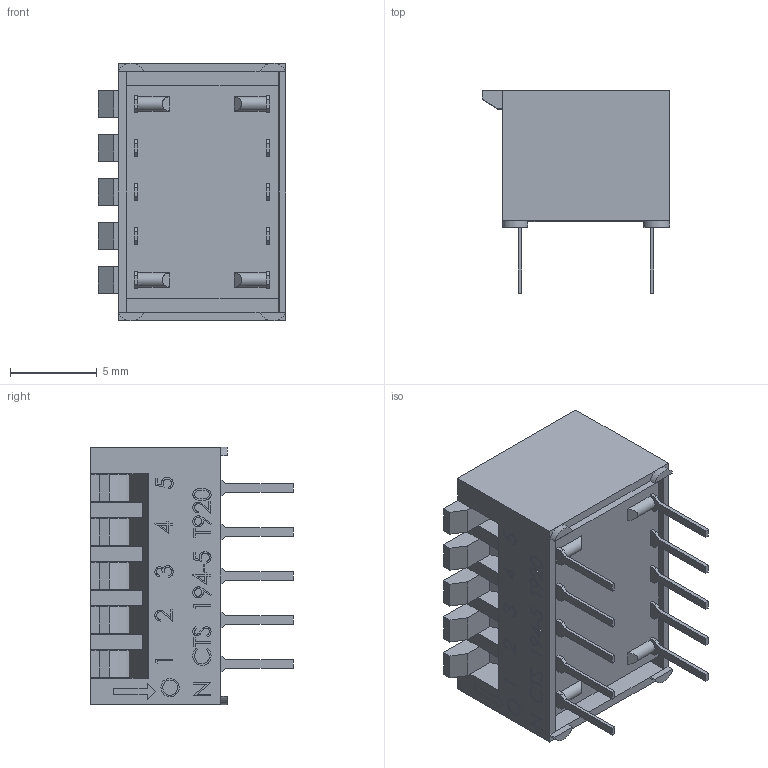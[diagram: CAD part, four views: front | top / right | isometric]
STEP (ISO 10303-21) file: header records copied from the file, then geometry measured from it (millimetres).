
FILE_DESCRIPTION (( 'STEP AP214' ), '1' );
FILE_NAME ('194-5MS.STEP', '2019-05-24T05:52:24', ( '' ), ( '' ), 'SwSTEP 2.0', 'SolidWorks 2019', '' );
FILE_SCHEMA (( 'AUTOMOTIVE_DESIGN' ));
Length unit declared in the file: millimetre
Products named in the file (4): 194-5 pole assembly; 194-40-105; 194-5MS; 193-56-001
Assembly tree (7 placements, depth 2):
  194-5MS
    194-40-105
    193-56-001  x5
    194-5 pole assembly
Bounding box: 10.79 x 11.71 x 14.88 mm (x, y, z)
Volume: 779 mm3; surface area: 1729.2 mm2
Topology: 7 solids, 7 shells, 479 faces, 1298 edges, 860 vertices
Faces by surface type: plane 345, bspline 101, cylinder 33
Entity records: 19688 total; most frequent: CARTESIAN_POINT 9000, ORIENTED_EDGE 2356, DIRECTION 1686, EDGE_CURVE 1178, LINE 938, VECTOR 938, VERTEX_POINT 780, EDGE_LOOP 468
